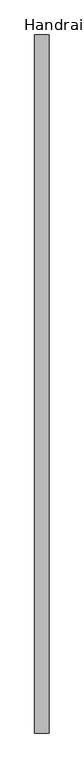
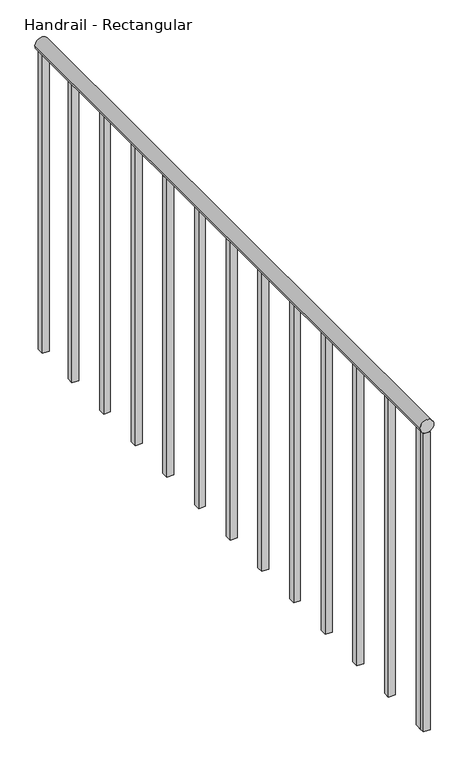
"""IFC4 building model written with IfcOpenShell, lengths in millimetres: railing geometry, Handrail - Rectangular."""

import ifcopenshell
import ifcopenshell.guid

model = None  # the IFC model being written
_history = None  # IfcOwnerHistory: only IFC2X3 demands one
_inside = {}  # id of a spatial element -> (the spatial element, [elements in it])
_under = {}  # id of a project, library or spatial element -> (it, [spatial elements below it])
_declared = {}  # id of a project -> (the project, [libraries it declares])
_typed = {}  # id of a type object -> (the type object, [elements of that type])
_made_of = {}  # id of a material, layer set ... -> (it, [elements and type objects made of it])


def new_model(schema):
    """Start an empty IFC model of exactly this schema.

    Asked for "IFC4X3", IfcOpenShell would pick the latest addendum, in which some entities
    have other attributes; the version numbers below select the first issue.
    IFC2X3 requires an IfcOwnerHistory on every rooted entity: one is made here for all.
    """
    global model, _history
    if schema == "IFC4X3":
        model = ifcopenshell.file(schema_version=(4, 3, 0, 0))
    else:
        model = ifcopenshell.file(schema=schema)
    _inside.clear()
    _under.clear()
    _declared.clear()
    _typed.clear()
    _made_of.clear()
    _history = None
    if model.schema == "IFC2X3":
        org = make("IfcOrganization", Name="unknown")
        user = make(
            "IfcPersonAndOrganization",
            ThePerson=make("IfcPerson", FamilyName="unknown"),
            TheOrganization=org,
        )
        app = make(
            "IfcApplication",
            ApplicationDeveloper=org,
            Version="unknown",
            ApplicationFullName="unknown",
            ApplicationIdentifier="unknown",
        )
        _history = make(
            "IfcOwnerHistory",
            OwningUser=user,
            OwningApplication=app,
            ChangeAction="ADDED",
            CreationDate=0,
        )
    return model


def make(cls, **values):
    """One entity of the class cls with the attributes given. An attribute that is None is left unset."""
    return model.create_entity(
        cls, **{name: value for name, value in values.items() if value is not None}
    )


def rooted(cls, **values):
    """An entity with a GlobalId (a new one), such as an element, a storey or a relation."""
    return make(cls, GlobalId=ifcopenshell.guid.new(), OwnerHistory=_history, **values)


def si_unit(unit_type, name, prefix=None):
    """IfcSIUnit, for example si_unit("LENGTHUNIT", "METRE", prefix="MILLI")."""
    return make("IfcSIUnit", UnitType=unit_type, Prefix=prefix, Name=name)


def assignment(units):
    """IfcUnitAssignment: the units of a project."""
    return None if units is None else make("IfcUnitAssignment", Units=units)


def point(xyz):
    """IfcCartesianPoint."""
    return None if xyz is None else make("IfcCartesianPoint", Coordinates=xyz)


def direction(xyz):
    """IfcDirection."""
    return None if xyz is None else make("IfcDirection", DirectionRatios=xyz)


def frame(location, z_axis=None, x_axis=None):
    """IfcAxis2Placement3D, a coordinate frame: its origin and axes. An axis left out is left unset."""
    return make(
        "IfcAxis2Placement3D",
        Location=point(location),
        Axis=direction(z_axis),
        RefDirection=direction(x_axis),
    )


def frame_2d(location, x_axis=None):
    """IfcAxis2Placement2D, a coordinate frame in the plane: its origin and x axis."""
    return make(
        "IfcAxis2Placement2D", Location=point(location), RefDirection=direction(x_axis)
    )


def origin():
    """The frame at (0, 0, 0) with its axes left unset."""
    return frame((0.0, 0.0, 0.0))


def place(relative_to, where):
    """IfcLocalPlacement: puts the frame where relative to a parent placement (None: the world)."""
    return make(
        "IfcLocalPlacement", PlacementRelTo=relative_to, RelativePlacement=where
    )


def context(
    kind, dimensions, precision=None, world=None, true_north=None, identifier=None
):
    """IfcGeometricRepresentationContext, for example the 3D "Model" context."""
    return make(
        "IfcGeometricRepresentationContext",
        ContextIdentifier=identifier,
        ContextType=kind,
        CoordinateSpaceDimension=dimensions,
        Precision=precision,
        WorldCoordinateSystem=world,
        TrueNorth=true_north,
    )


def project(units=None, contexts=None):
    """IfcProject with its units and contexts."""
    return rooted(
        "IfcProject",
        Name="project",
        RepresentationContexts=contexts,
        UnitsInContext=assignment(units),
    )


def spatial(cls, under=None, at=None, **own):
    """A site, building, storey or space (cls), placed at a placement, below another one or the project."""
    s = rooted(cls, ObjectPlacement=at, **own)
    if under is not None:
        _under.setdefault(under.id(), (under, []))[1].append(s)
    return s


def polyline(points):
    """IfcPolyline through the points."""
    return make("IfcPolyline", Points=[point(p) for p in points])


def circle_curve(where, radius):
    """IfcCircle in the frame where."""
    return make("IfcCircle", Position=where, Radius=radius)


def trimmed(basis, trim1, trim2, sense, master):
    """IfcTrimmedCurve: the piece of a basis curve between two trims."""
    return make(
        "IfcTrimmedCurve",
        BasisCurve=basis,
        Trim1=trim1,
        Trim2=trim2,
        SenseAgreement=sense,
        MasterRepresentation=master,
    )


def segment(curve, same_sense, transition):
    """IfcCompositeCurveSegment."""
    return make(
        "IfcCompositeCurveSegment",
        Transition=transition,
        SameSense=same_sense,
        ParentCurve=curve,
    )


def composite_curve(segments, self_intersect=None):
    """IfcCompositeCurve: segments joined end to end."""
    return make("IfcCompositeCurve", Segments=segments, SelfIntersect=self_intersect)


def outline(outer, holes=None, kind="AREA"):
    """IfcArbitraryClosedProfileDef: a profile drawn as a closed curve; with holes, ...WithVoids."""
    if holes is None:
        return make("IfcArbitraryClosedProfileDef", ProfileType=kind, OuterCurve=outer)
    return make(
        "IfcArbitraryProfileDefWithVoids",
        ProfileType=kind,
        OuterCurve=outer,
        InnerCurves=holes,
    )


def extrude(swept, where, along, depth):
    """IfcExtrudedAreaSolid: the profile swept, set in the frame where, extruded along a direction by depth."""
    return make(
        "IfcExtrudedAreaSolid",
        SweptArea=swept,
        Position=where,
        ExtrudedDirection=direction(along),
        Depth=depth,
    )


def shape(context_of_items, identifier, shape_type, items):
    """IfcShapeRepresentation: the items that make up one representation, for example the "Body"."""
    return make(
        "IfcShapeRepresentation",
        ContextOfItems=context_of_items,
        RepresentationIdentifier=identifier,
        RepresentationType=shape_type,
        Items=items,
    )


def source(mapping_origin, context_of_items, identifier, shape_type, items):
    """IfcRepresentationMap: a shape defined once, which mapped items show again and again."""
    return make(
        "IfcRepresentationMap",
        MappingOrigin=mapping_origin,
        MappedRepresentation=shape(context_of_items, identifier, shape_type, items),
    )


def transform(
    local_origin,
    x_axis=None,
    y_axis=None,
    z_axis=None,
    scale=None,
    scale2=None,
    scale3=None,
    uniform=True,
):
    """IfcCartesianTransformationOperator3D, or its non-uniform kind. x_axis, y_axis, z_axis: its Axis1, 2, 3."""
    if uniform:
        return make(
            "IfcCartesianTransformationOperator3D",
            Axis1=direction(x_axis),
            Axis2=direction(y_axis),
            LocalOrigin=point(local_origin),
            Scale=scale,
            Axis3=direction(z_axis),
        )
    return make(
        "IfcCartesianTransformationOperator3DnonUniform",
        Axis1=direction(x_axis),
        Axis2=direction(y_axis),
        LocalOrigin=point(local_origin),
        Scale=scale,
        Axis3=direction(z_axis),
        Scale2=scale2,
        Scale3=scale3,
    )


def mapped(mapping_source, mapping_target):
    """IfcMappedItem: shows the shape of a source again, moved by a transform."""
    return make(
        "IfcMappedItem", MappingSource=mapping_source, MappingTarget=mapping_target
    )


def made_of(thing, what):
    """Note that an element or type object is made of a material, layer set ...; save() writes the relation."""
    if what is not None:
        _made_of.setdefault(what.id(), (what, []))[1].append(thing)
    return thing


def element(
    cls,
    number,
    at=None,
    inside=None,
    cuts=None,
    type_object=None,
    material=None,
    context=None,
    identifier="Body",
    shape_type=None,
    held_by="IfcProductDefinitionShape",
    body=None,
    shapes=None,
    **own,
):
    """One element of the class cls, such as IfcWall. Its Tag is "e" and its number.

    at: its placement. inside: the storey or other place that contains it. cuts: it is an
    opening in that element (IfcRelVoidsElement). A single representation is given by context,
    identifier, shape_type and body (its items); several are given by shapes. held_by: the class
    of the entity that holds the representations. save() writes the other relations.
    """
    e = rooted(cls, Tag="e%d" % number, ObjectPlacement=at, **own)
    if body is not None:
        shapes = [shape(context, identifier, shape_type, body)]
    if shapes is not None:
        e.Representation = make(held_by, Representations=shapes)
    if inside is not None:
        _inside.setdefault(inside.id(), (inside, []))[1].append(e)
    if cuts is not None:
        rooted(
            "IfcRelVoidsElement", RelatingBuildingElement=cuts, RelatedOpeningElement=e
        )
    if type_object is not None:
        _typed.setdefault(type_object.id(), (type_object, []))[1].append(e)
    return made_of(e, material)


def aggregate(whole, parts):
    """IfcRelAggregates: a whole, such as a stair, and the parts it consists of."""
    return rooted("IfcRelAggregates", RelatingObject=whole, RelatedObjects=parts)


def save(model, path):
    """Write the relations noted so far, then the file.

    IfcRelAggregates (storeys below a building ...), IfcRelContainedInSpatialStructure (elements
    in a storey), IfcRelDefinesByType, IfcRelAssociatesMaterial and IfcRelDeclares: one each for
    every whole, place, type object, material and project.
    """
    for whole, parts in _under.values():
        aggregate(whole, parts)
    for where, things in _inside.values():
        rooted(
            "IfcRelContainedInSpatialStructure",
            RelatedElements=things,
            RelatingStructure=where,
        )
    for kind, things in _typed.values():
        rooted("IfcRelDefinesByType", RelatedObjects=things, RelatingType=kind)
    for what, things in _made_of.values():
        rooted("IfcRelAssociatesMaterial", RelatedObjects=things, RelatingMaterial=what)
    for by, libraries in _declared.values():
        rooted("IfcRelDeclares", RelatingContext=by, RelatedDefinitions=libraries)
    model.write(path)


def handrail_rectangular_74ad9185(model_context):
    return source(origin(), model_context, "Body", "SweptSolid", [
        extrude(outline(composite_curve([segment(trimmed(circle_curve(frame_2d((3943.35, -32167.4839563)), 19.05), [point((3943.35, -32186.5339563))], [point((3943.35, -32148.4339563))], False, "CARTESIAN"), True, "CONTINUOUS"), segment(trimmed(circle_curve(frame_2d((3943.35, -32167.4839563)), 19.05), [point((3943.35, -32148.4339563))], [point((3943.35, -32186.5339563))], False, "CARTESIAN"), True, "CONTINUOUS")], self_intersect=False)), frame((0.0, 4578.8316867, 0.0), z_axis=(0.0, 1.0, 0.0), x_axis=(0.0, 0.0, 1.0)), (0.0, 0.0, 1.0), 1854.2),
        extrude(outline(polyline([(-32157.9589563, 4613.7566867), (-32157.9589563, 4594.7066867), (-32177.0089563, 4594.7066867), (-32177.0089563, 4613.7566867), (-32157.9589563, 4613.7566867)])), frame((0.0, 0.0, 3048.0), z_axis=(0.0, 0.0, 1.0), x_axis=(1.0, 0.0, 0.0)), (0.0, 0.0, 1.0), 876.3),
        extrude(outline(polyline([(-32157.9589563, 4766.1566867), (-32157.9589563, 4747.1066867), (-32177.0089563, 4747.1066867), (-32177.0089563, 4766.1566867), (-32157.9589563, 4766.1566867)])), frame((0.0, 0.0, 3048.0), z_axis=(0.0, 0.0, 1.0), x_axis=(1.0, 0.0, 0.0)), (0.0, 0.0, 1.0), 876.3),
        extrude(outline(polyline([(-32157.9589563, 4918.5566867), (-32157.9589563, 4899.5066867), (-32177.0089563, 4899.5066867), (-32177.0089563, 4918.5566867), (-32157.9589563, 4918.5566867)])), frame((0.0, 0.0, 3048.0), z_axis=(0.0, 0.0, 1.0), x_axis=(1.0, 0.0, 0.0)), (0.0, 0.0, 1.0), 876.3),
        extrude(outline(polyline([(-32157.9589563, 5070.9566867), (-32157.9589563, 5051.9066867), (-32177.0089563, 5051.9066867), (-32177.0089563, 5070.9566867), (-32157.9589563, 5070.9566867)])), frame((0.0, 0.0, 3048.0), z_axis=(0.0, 0.0, 1.0), x_axis=(1.0, 0.0, 0.0)), (0.0, 0.0, 1.0), 876.3),
        extrude(outline(polyline([(-32157.9589563, 5223.3566867), (-32157.9589563, 5204.3066867), (-32177.0089563, 5204.3066867), (-32177.0089563, 5223.3566867), (-32157.9589563, 5223.3566867)])), frame((0.0, 0.0, 3048.0), z_axis=(0.0, 0.0, 1.0), x_axis=(1.0, 0.0, 0.0)), (0.0, 0.0, 1.0), 876.3),
        extrude(outline(polyline([(-32157.9589563, 5375.7566867), (-32157.9589563, 5356.7066867), (-32177.0089563, 5356.7066867), (-32177.0089563, 5375.7566867), (-32157.9589563, 5375.7566867)])), frame((0.0, 0.0, 3048.0), z_axis=(0.0, 0.0, 1.0), x_axis=(1.0, 0.0, 0.0)), (0.0, 0.0, 1.0), 876.3),
        extrude(outline(polyline([(-32157.9589563, 5528.1566867), (-32157.9589563, 5509.1066867), (-32177.0089563, 5509.1066867), (-32177.0089563, 5528.1566867), (-32157.9589563, 5528.1566867)])), frame((0.0, 0.0, 3048.0), z_axis=(0.0, 0.0, 1.0), x_axis=(1.0, 0.0, 0.0)), (0.0, 0.0, 1.0), 876.3),
        extrude(outline(polyline([(-32157.9589563, 5680.5566867), (-32157.9589563, 5661.5066867), (-32177.0089563, 5661.5066867), (-32177.0089563, 5680.5566867), (-32157.9589563, 5680.5566867)])), frame((0.0, 0.0, 3048.0), z_axis=(0.0, 0.0, 1.0), x_axis=(1.0, 0.0, 0.0)), (0.0, 0.0, 1.0), 876.3),
        extrude(outline(polyline([(-32157.9589563, 5832.9566867), (-32157.9589563, 5813.9066867), (-32177.0089563, 5813.9066867), (-32177.0089563, 5832.9566867), (-32157.9589563, 5832.9566867)])), frame((0.0, 0.0, 3048.0), z_axis=(0.0, 0.0, 1.0), x_axis=(1.0, 0.0, 0.0)), (0.0, 0.0, 1.0), 876.3),
        extrude(outline(polyline([(-32157.9589563, 5985.3566867), (-32157.9589563, 5966.3066867), (-32177.0089563, 5966.3066867), (-32177.0089563, 5985.3566867), (-32157.9589563, 5985.3566867)])), frame((0.0, 0.0, 3048.0), z_axis=(0.0, 0.0, 1.0), x_axis=(1.0, 0.0, 0.0)), (0.0, 0.0, 1.0), 876.3),
        extrude(outline(polyline([(-32157.9589563, 6137.7566867), (-32157.9589563, 6118.7066867), (-32177.0089563, 6118.7066867), (-32177.0089563, 6137.7566867), (-32157.9589563, 6137.7566867)])), frame((0.0, 0.0, 3048.0), z_axis=(0.0, 0.0, 1.0), x_axis=(1.0, 0.0, 0.0)), (0.0, 0.0, 1.0), 876.3),
        extrude(outline(polyline([(-32157.9589563, 6290.1566867), (-32157.9589563, 6271.1066867), (-32177.0089563, 6271.1066867), (-32177.0089563, 6290.1566867), (-32157.9589563, 6290.1566867)])), frame((0.0, 0.0, 3048.0), z_axis=(0.0, 0.0, 1.0), x_axis=(1.0, 0.0, 0.0)), (0.0, 0.0, 1.0), 876.3),
        extrude(outline(polyline([(-32157.9589563, 4597.8816867), (-32157.9589563, 4578.8316867), (-32177.0089563, 4578.8316867), (-32177.0089563, 4597.8816867), (-32157.9589563, 4597.8816867)])), frame((0.0, 0.0, 3048.0), z_axis=(0.0, 0.0, 1.0), x_axis=(1.0, 0.0, 0.0)), (0.0, 0.0, 1.0), 876.3),
        extrude(outline(polyline([(-32157.9589563, 6433.0316867), (-32157.9589563, 6413.9816867), (-32177.0089563, 6413.9816867), (-32177.0089563, 6433.0316867), (-32157.9589563, 6433.0316867)])), frame((0.0, 0.0, 3048.0), z_axis=(0.0, 0.0, 1.0), x_axis=(1.0, 0.0, 0.0)), (0.0, 0.0, 1.0), 876.3),
    ])


if __name__ == "__main__":
    model = new_model("IFC4")
    model_context = context("Model", 3, world=origin())
    ifc_project = project(units=[si_unit("LENGTHUNIT", "METRE", prefix="MILLI")], contexts=[model_context])
    site = spatial("IfcSite", under=ifc_project)
    building = spatial("IfcBuilding", under=site)
    placement = place(None, origin())
    handrail_rectangular_shape = handrail_rectangular_74ad9185(model_context)
    element("IfcRailing", 1, ObjectType="Handrail - Rectangular", at=placement, inside=building, context=model_context, shape_type="MappedRepresentation", body=[
        mapped(handrail_rectangular_shape, transform((0.0, 0.0, 0.0), x_axis=(1.0, 0.0, 0.0), y_axis=(0.0, 1.0, 0.0), z_axis=(0.0, 0.0, 1.0))),
    ])
    save(model, "model.ifc")
